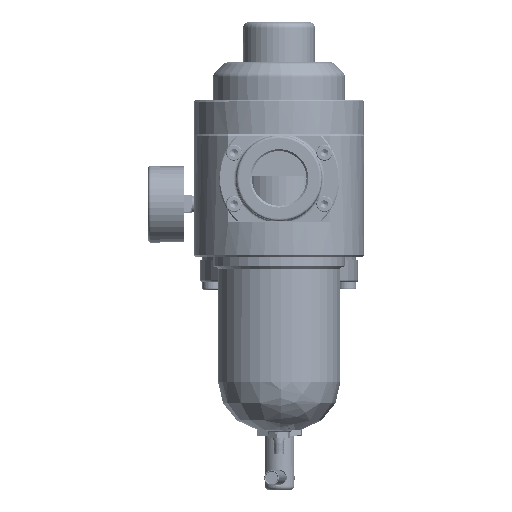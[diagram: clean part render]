
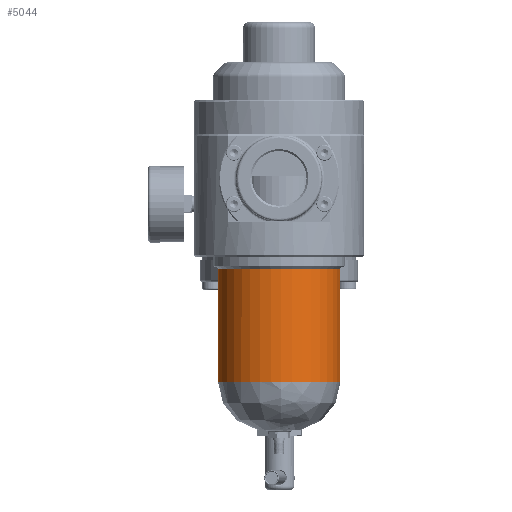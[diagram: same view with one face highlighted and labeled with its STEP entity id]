
A CAD part, left-side view. The second image highlights one B-rep face of the part: STEP entity #5044.
In plain terms, the highlighted cylindrical face has radius 50 mm (diameter 100 mm), a full revolution.
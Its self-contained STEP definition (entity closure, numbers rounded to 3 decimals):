
#4822=CARTESIAN_POINT('',(-50.,139.5,0.0));
#4823=VERTEX_POINT('',#4822);
#4824=CARTESIAN_POINT('',(0.,139.5,0.0));
#4825=DIRECTION('',(0.0,1.0,0.0));
#4826=DIRECTION('',(-1.0,0.0,0.0));
#4827=AXIS2_PLACEMENT_3D('',#4824,#4825,#4826);
#4828=CIRCLE('',#4827,50.);
#4829=EDGE_CURVE('',#4823,#4823,#4828,.T.);
#5018=CARTESIAN_POINT('',(-50.,40.5,0.0));
#5019=VERTEX_POINT('',#5018);
#5020=CARTESIAN_POINT('',(0.,40.5,0.0));
#5021=DIRECTION('',(0.0,1.0,0.0));
#5022=DIRECTION('',(-1.0,0.0,0.0));
#5023=AXIS2_PLACEMENT_3D('',#5020,#5021,#5022);
#5024=CIRCLE('',#5023,50.);
#5025=EDGE_CURVE('',#5019,#5019,#5024,.T.);
#5033=CARTESIAN_POINT('',(0.,90.,0.0));
#5034=DIRECTION('',(0.0,1.0,0.0));
#5035=DIRECTION('',(-1.0,0.0,0.0));
#5036=AXIS2_PLACEMENT_3D('',#5033,#5034,#5035);
#5037=CYLINDRICAL_SURFACE('',#5036,50.);
#5038=ORIENTED_EDGE('',*,*,#4829,.F.);
#5039=EDGE_LOOP('',(#5038));
#5040=FACE_OUTER_BOUND('',#5039,.T.);
#5041=ORIENTED_EDGE('',*,*,#5025,.T.);
#5042=EDGE_LOOP('',(#5041));
#5043=FACE_BOUND('',#5042,.T.);
#5044=ADVANCED_FACE('',(#5040,#5043),#5037,.T.);
